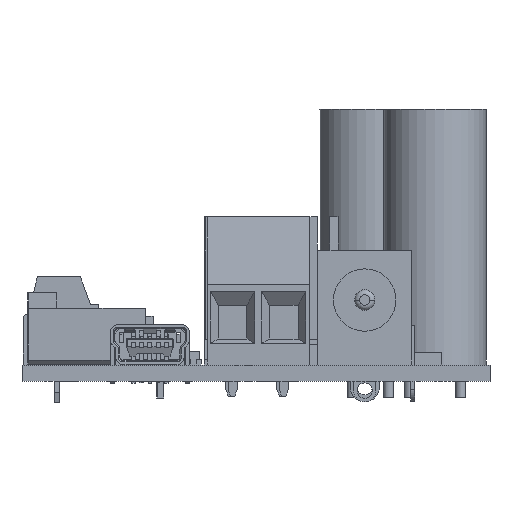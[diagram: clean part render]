
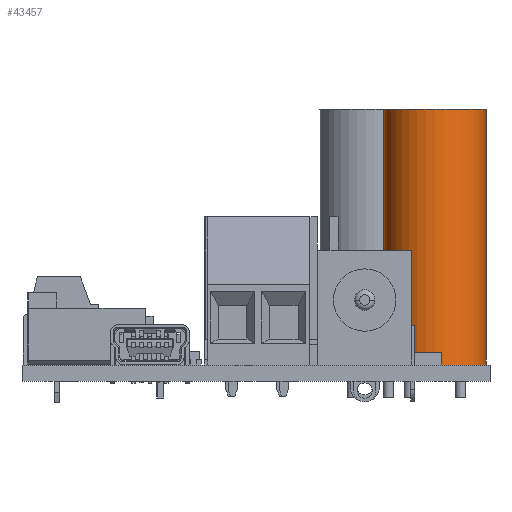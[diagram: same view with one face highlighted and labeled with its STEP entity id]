
A CAD part, front view. The second image highlights one B-rep face of the part: STEP entity #43457.
In plain terms, the highlighted cylindrical face has radius 5 mm (diameter 10 mm), a full revolution.
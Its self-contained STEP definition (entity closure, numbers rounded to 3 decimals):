
#17142=CIRCLE('',#45874,5.);
#17143=CIRCLE('',#45875,5.);
#17466=CYLINDRICAL_SURFACE('',#45873,5.);
#20012=VERTEX_POINT('',#63192);
#20013=VERTEX_POINT('',#63194);
#23246=VECTOR('',#52909,1.);
#26490=LINE('',#63193,#23246);
#30480=EDGE_CURVE('',#20012,#20012,#17142,.T.);
#30481=EDGE_CURVE('',#20012,#20013,#26490,.T.);
#30482=EDGE_CURVE('',#20013,#20013,#17143,.T.);
#38404=ORIENTED_EDGE('',*,*,#30480,.T.);
#38405=ORIENTED_EDGE('',*,*,#30481,.T.);
#38406=ORIENTED_EDGE('',*,*,#30482,.F.);
#38407=ORIENTED_EDGE('',*,*,#30481,.F.);
#40256=EDGE_LOOP('',(#38404,#38405,#38406,#38407));
#41950=FACE_BOUND('',#40256,.T.);
#43457=ADVANCED_FACE('',(#41950),#17466,.T.);
#45873=AXIS2_PLACEMENT_3D('',#63190,#52905,#52906);
#45874=AXIS2_PLACEMENT_3D('',#63191,#52907,#52908);
#45875=AXIS2_PLACEMENT_3D('',#63195,#52910,#52911);
#52905=DIRECTION('',(0.,0.,-1.));
#52906=DIRECTION('',(5.,0.,0.));
#52907=DIRECTION('',(0.,0.,1.));
#52908=DIRECTION('',(5.,0.,0.));
#52909=DIRECTION('',(0.,0.,1.));
#52910=DIRECTION('',(0.,0.,1.));
#52911=DIRECTION('',(5.,0.,0.));
#63190=CARTESIAN_POINT('',(0.,0.,0.));
#63191=CARTESIAN_POINT('',(0.,0.,0.));
#63192=CARTESIAN_POINT('',(5.,0.,0.));
#63193=CARTESIAN_POINT('',(5.,0.,0.));
#63194=CARTESIAN_POINT('',(5.,0.,25.));
#63195=CARTESIAN_POINT('',(0.,0.,25.));
